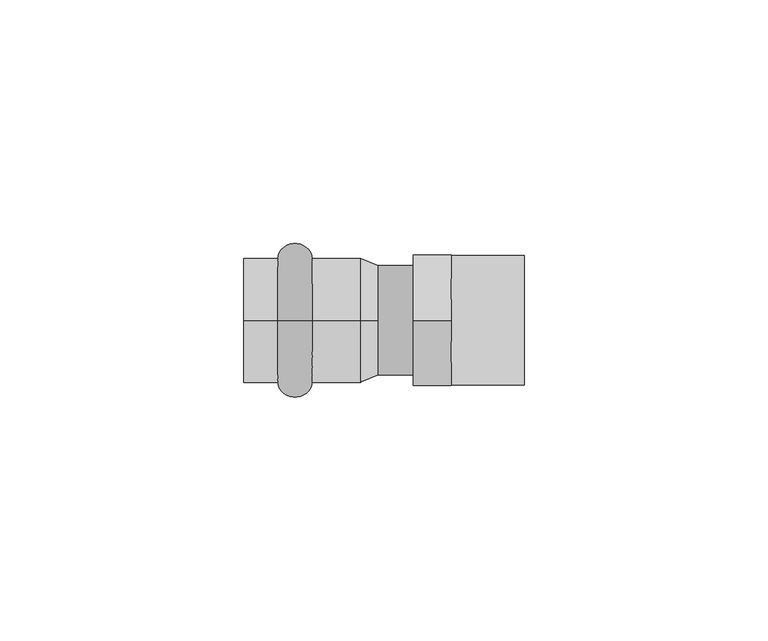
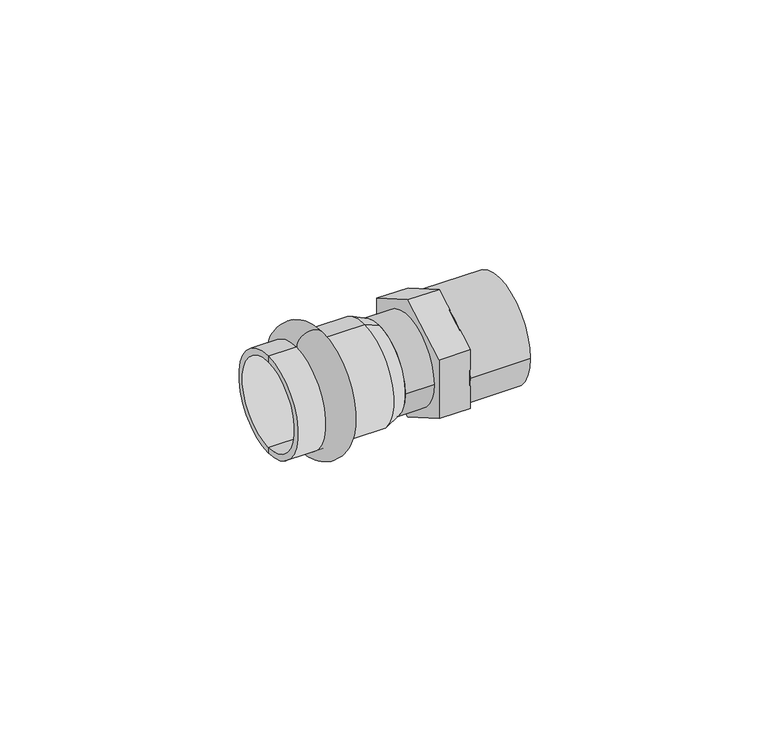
"""IFC4 building model written with IfcOpenShell, lengths in millimetres: pipe fitting geometry."""

from ifc_helpers import new_model, si_unit, point, frame, origin, origin_2d, place, context, project, spatial, polyline, circle_curve, ellipse_curve, trimmed, segment, composite_curve, outline, extrude, source, transform, mapped, element, save
from ifc_brep_helpers import plane_surface, cylinder_surface, revolved_surface, advanced_brep


def pipe_fitting_c08372ad(model_context):
    return source(origin(), model_context, "Body", "SolidModel", [
        advanced_brep(
        [(-17.0, 0.0, 12.75), (-17.0, 0.0, -12.75), (-10.0, 0.0, -12.75), (-10.0, 0.0, 12.75)],
        [
            (0, 1, circle_curve(frame((-17.0, 0.0, 0.0), z_axis=(-1.0, 0.0, 0.0), x_axis=(0.0, 0.0, -1.0)), 12.75)),
            (1, 2),
            (2, 3, circle_curve(frame((-10.0, 0.0, 0.0), z_axis=(1.0, 0.0, 0.0), x_axis=(0.0, 0.0, -1.0)), 12.75)),
            (3, 0),
            (1, 0, circle_curve(frame((-17.0, 0.0, 0.0), z_axis=(-1.0, 0.0, 0.0), x_axis=(0.0, 0.0, -1.0)), 12.75)),
            (3, 2, circle_curve(frame((-10.0, 0.0, 0.0), z_axis=(1.0, 0.0, 0.0), x_axis=(0.0, 0.0, -1.0)), 12.75)),
            (2, 1, ellipse_curve(frame((-13.5, 0.0, -12.75), z_axis=(0.0, 1.0, 0.0), x_axis=(-1.0, 0.0, 0.0)), 3.5, 3.1)),
            (0, 3, ellipse_curve(frame((-13.5, 0.0, 12.75), z_axis=(0.0, 1.0, 0.0), x_axis=(-1.0, 0.0, 0.0)), 3.5, 3.1)),
        ],
        [
            revolved_surface(polyline([(-10.0, 0.0, -12.75), (-17.0, 0.0, -12.75)]), (3.0, 0.0, 0.0), (1.0, 0.0, 0.0)),
            revolved_surface(trimmed(ellipse_curve(frame((-13.5, 0.0, -12.75), z_axis=(0.0, -1.0, 0.0), x_axis=(-1.0, 0.0, 0.0)), 3.5, 3.1), [point((-17.0, 0.0, -12.75))], [point((-10.0, 0.0, -12.75))], True, "CARTESIAN"), (3.0, 0.0, 0.0), (1.0, 0.0, 0.0)),
        ],
        [
            (0, [[1, 2, 3, 4]]),
            (0, [[5, -4, 6, -2]]),
            (1, [[-3, 7, -1, 8]]),
            (1, [[-6, -8, -5, -7]]),
        ],
    ),
        advanced_brep(
        [(3.5337785, 0.0, 11.25), (3.5337785, 0.0, -11.25), (0.0, 0.0, -12.75), (0.0, 0.0, 12.75), (-24.0, 0.0, 11.25), (-24.0, 0.0, -11.25), (-24.0, 0.0, 12.75), (-24.0, 0.0, -12.75)],
        [
            (0, 1, circle_curve(frame((3.5337785, 0.0, 0.0), z_axis=(-1.0, 0.0, 0.0), x_axis=(0.0, 0.0, -1.0)), 11.25)),
            (1, 2),
            (2, 3, circle_curve(frame((0.0, 0.0, 0.0), z_axis=(1.0, 0.0, 0.0), x_axis=(0.0, 0.0, -1.0)), 12.75)),
            (3, 0),
            (1, 0, circle_curve(frame((3.5337785, 0.0, 0.0), z_axis=(-1.0, 0.0, 0.0), x_axis=(0.0, 0.0, -1.0)), 11.25)),
            (3, 2, circle_curve(frame((0.0, 0.0, 0.0), z_axis=(1.0, 0.0, 0.0), x_axis=(0.0, 0.0, -1.0)), 12.75)),
            (4, 5, circle_curve(frame((-24.0, 0.0, 0.0), z_axis=(-1.0, 0.0, 0.0), x_axis=(0.0, 0.0, -1.0)), 11.25)),
            (5, 1),
            (0, 4),
            (5, 4, circle_curve(frame((-24.0, 0.0, 0.0), z_axis=(-1.0, 0.0, 0.0), x_axis=(0.0, 0.0, -1.0)), 11.25)),
            (6, 7, circle_curve(frame((-24.0, 0.0, 0.0), z_axis=(-1.0, 0.0, 0.0), x_axis=(0.0, 0.0, -1.0)), 12.75)),
            (7, 5),
            (4, 6),
            (7, 6, circle_curve(frame((-24.0, 0.0, 0.0), z_axis=(-1.0, 0.0, 0.0), x_axis=(0.0, 0.0, -1.0)), 12.75)),
            (2, 7),
            (6, 3),
        ],
        [
            revolved_surface(polyline([(0.0, 0.0, -12.75), (3.5337785, 0.0, -11.25)]), (3.0, 0.0, 0.0), (1.0, 0.0, 0.0)),
            revolved_surface(polyline([(3.5337785, 0.0, -11.25), (-24.0, 0.0, -11.25)]), (3.0, 0.0, 0.0), (1.0, 0.0, 0.0)),
            plane_surface(frame((-24.0, 0.0, 0.0), z_axis=(-1.0, 0.0, 0.0), x_axis=(0.0, 0.0, -1.0))),
            cylinder_surface(frame((3.0, 0.0, 0.0), z_axis=(1.0, 0.0, 0.0), x_axis=(0.0, 0.0, -1.0)), 12.75),
        ],
        [
            (0, [[1, 2, 3, 4]]),
            (0, [[5, -4, 6, -2]]),
            (1, [[7, 8, -1, 9]]),
            (1, [[10, -9, -5, -8]]),
            (2, [[11, 12, -7, 13]]),
            (2, [[14, -13, -10, -12]]),
            (3, [[-3, 15, -11, 16]]),
            (3, [[-6, -16, -14, -15]]),
        ],
    ),
        extrude(outline(composite_curve([segment(trimmed(circle_curve(origin_2d(), 13.25), [point((-13.25, 0.0))], [point((13.25, 0.0))], False, "CARTESIAN"), True, "CONTINUOUS"), segment(trimmed(circle_curve(origin_2d(), 13.25), [point((13.25, 0.0))], [point((-13.25, 0.0))], False, "CARTESIAN"), True, "CONTINUOUS")], self_intersect=False)), frame((18.5337785, 0.0, 0.0), z_axis=(1.0, 0.0, 0.0), x_axis=(0.0, 1.0, 0.0)), (0.0, 0.0, 1.0), 15.0),
        extrude(outline(composite_curve([segment(trimmed(circle_curve(origin_2d(), 11.25), [point((-11.25, 0.0))], [point((11.25, 0.0))], False, "CARTESIAN"), True, "CONTINUOUS"), segment(trimmed(circle_curve(origin_2d(), 11.25), [point((11.25, 0.0))], [point((-11.25, 0.0))], False, "CARTESIAN"), True, "CONTINUOUS")], self_intersect=False)), frame((3.5337785, 0.0, 0.0), z_axis=(1.0, 0.0, 0.0), x_axis=(0.0, 1.0, 0.0)), (0.0, 0.0, 1.0), 7.2),
        extrude(outline(polyline([(-13.4, 7.7364936), (0.0, 15.4729872), (13.4, 7.7364936), (13.4, -7.7364936), (0.0, -15.4729872), (-13.4, -7.7364936), (-13.4, 7.7364936)]), holes=[polyline([(0.0, -7.2168784), (6.25, -3.6084392), (6.25, 3.6084392), (0.0, 7.2168784), (-6.25, 3.6084392), (-6.25, -3.6084392), (0.0, -7.2168784)])]), frame((10.7337785, 0.0, 0.0), z_axis=(1.0, 0.0, 0.0), x_axis=(0.0, 1.0, 0.0)), (0.0, 0.0, 1.0), 7.8),
    ])


if __name__ == "__main__":
    model = new_model("IFC4")
    model_context = context("Model", 3, world=origin())
    ifc_project = project(units=[si_unit("LENGTHUNIT", "METRE", prefix="MILLI")], contexts=[model_context])
    site = spatial("IfcSite", under=ifc_project)
    building = spatial("IfcBuilding", under=site)
    placement = place(None, origin())
    pipe_fitting_shape = pipe_fitting_c08372ad(model_context)
    element("IfcPipeFitting", 1, ObjectType="РЕХАУ_Пресс Муфта НР : 22 x R 3/4\"", at=placement, inside=building, context=model_context, shape_type="MappedRepresentation", body=[
        mapped(pipe_fitting_shape, transform((0.0, 0.0, 0.0), x_axis=(1.0, 0.0, 0.0), y_axis=(0.0, 1.0, 0.0), z_axis=(0.0, 0.0, 1.0))),
    ])
    save(model, "model.ifc")
